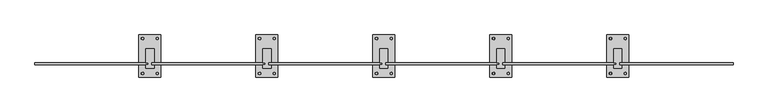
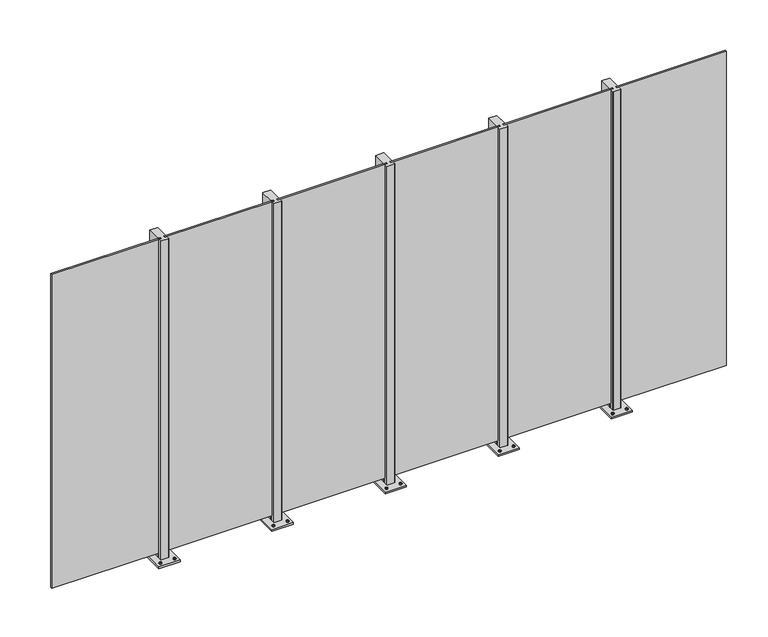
"""IFC4 building model written with IfcOpenShell, lengths in millimetres: railing geometry, TOP CONCRETE ANCHOR _TOP MOUNT STRUC_GLASS_8'."""

import ifcopenshell
import ifcopenshell.guid

model = None  # the IFC model being written
_history = None  # IfcOwnerHistory: only IFC2X3 demands one
_inside = {}  # id of a spatial element -> (the spatial element, [elements in it])
_under = {}  # id of a project, library or spatial element -> (it, [spatial elements below it])
_declared = {}  # id of a project -> (the project, [libraries it declares])
_typed = {}  # id of a type object -> (the type object, [elements of that type])
_made_of = {}  # id of a material, layer set ... -> (it, [elements and type objects made of it])


def new_model(schema):
    """Start an empty IFC model of exactly this schema.

    Asked for "IFC4X3", IfcOpenShell would pick the latest addendum, in which some entities
    have other attributes; the version numbers below select the first issue.
    IFC2X3 requires an IfcOwnerHistory on every rooted entity: one is made here for all.
    """
    global model, _history
    if schema == "IFC4X3":
        model = ifcopenshell.file(schema_version=(4, 3, 0, 0))
    else:
        model = ifcopenshell.file(schema=schema)
    _inside.clear()
    _under.clear()
    _declared.clear()
    _typed.clear()
    _made_of.clear()
    _history = None
    if model.schema == "IFC2X3":
        org = make("IfcOrganization", Name="unknown")
        user = make(
            "IfcPersonAndOrganization",
            ThePerson=make("IfcPerson", FamilyName="unknown"),
            TheOrganization=org,
        )
        app = make(
            "IfcApplication",
            ApplicationDeveloper=org,
            Version="unknown",
            ApplicationFullName="unknown",
            ApplicationIdentifier="unknown",
        )
        _history = make(
            "IfcOwnerHistory",
            OwningUser=user,
            OwningApplication=app,
            ChangeAction="ADDED",
            CreationDate=0,
        )
    return model


def make(cls, **values):
    """One entity of the class cls with the attributes given. An attribute that is None is left unset."""
    return model.create_entity(
        cls, **{name: value for name, value in values.items() if value is not None}
    )


def rooted(cls, **values):
    """An entity with a GlobalId (a new one), such as an element, a storey or a relation."""
    return make(cls, GlobalId=ifcopenshell.guid.new(), OwnerHistory=_history, **values)


def si_unit(unit_type, name, prefix=None):
    """IfcSIUnit, for example si_unit("LENGTHUNIT", "METRE", prefix="MILLI")."""
    return make("IfcSIUnit", UnitType=unit_type, Prefix=prefix, Name=name)


def assignment(units):
    """IfcUnitAssignment: the units of a project."""
    return None if units is None else make("IfcUnitAssignment", Units=units)


def point(xyz):
    """IfcCartesianPoint."""
    return None if xyz is None else make("IfcCartesianPoint", Coordinates=xyz)


def direction(xyz):
    """IfcDirection."""
    return None if xyz is None else make("IfcDirection", DirectionRatios=xyz)


def frame(location, z_axis=None, x_axis=None):
    """IfcAxis2Placement3D, a coordinate frame: its origin and axes. An axis left out is left unset."""
    return make(
        "IfcAxis2Placement3D",
        Location=point(location),
        Axis=direction(z_axis),
        RefDirection=direction(x_axis),
    )


def frame_2d(location, x_axis=None):
    """IfcAxis2Placement2D, a coordinate frame in the plane: its origin and x axis."""
    return make(
        "IfcAxis2Placement2D", Location=point(location), RefDirection=direction(x_axis)
    )


def origin():
    """The frame at (0, 0, 0) with its axes left unset."""
    return frame((0.0, 0.0, 0.0))


def origin_with_axes():
    """The frame at (0, 0, 0) with the z axis (0, 0, 1) and the x axis (1, 0, 0) written out."""
    return frame((0.0, 0.0, 0.0), z_axis=(0.0, 0.0, 1.0), x_axis=(1.0, 0.0, 0.0))


def place(relative_to, where):
    """IfcLocalPlacement: puts the frame where relative to a parent placement (None: the world)."""
    return make(
        "IfcLocalPlacement", PlacementRelTo=relative_to, RelativePlacement=where
    )


def context(
    kind, dimensions, precision=None, world=None, true_north=None, identifier=None
):
    """IfcGeometricRepresentationContext, for example the 3D "Model" context."""
    return make(
        "IfcGeometricRepresentationContext",
        ContextIdentifier=identifier,
        ContextType=kind,
        CoordinateSpaceDimension=dimensions,
        Precision=precision,
        WorldCoordinateSystem=world,
        TrueNorth=true_north,
    )


def project(units=None, contexts=None):
    """IfcProject with its units and contexts."""
    return rooted(
        "IfcProject",
        Name="project",
        RepresentationContexts=contexts,
        UnitsInContext=assignment(units),
    )


def spatial(cls, under=None, at=None, **own):
    """A site, building, storey or space (cls), placed at a placement, below another one or the project."""
    s = rooted(cls, ObjectPlacement=at, **own)
    if under is not None:
        _under.setdefault(under.id(), (under, []))[1].append(s)
    return s


def polyline(points):
    """IfcPolyline through the points."""
    return make("IfcPolyline", Points=[point(p) for p in points])


def circle_curve(where, radius):
    """IfcCircle in the frame where."""
    return make("IfcCircle", Position=where, Radius=radius)


def trimmed(basis, trim1, trim2, sense, master):
    """IfcTrimmedCurve: the piece of a basis curve between two trims."""
    return make(
        "IfcTrimmedCurve",
        BasisCurve=basis,
        Trim1=trim1,
        Trim2=trim2,
        SenseAgreement=sense,
        MasterRepresentation=master,
    )


def segment(curve, same_sense, transition):
    """IfcCompositeCurveSegment."""
    return make(
        "IfcCompositeCurveSegment",
        Transition=transition,
        SameSense=same_sense,
        ParentCurve=curve,
    )


def composite_curve(segments, self_intersect=None):
    """IfcCompositeCurve: segments joined end to end."""
    return make("IfcCompositeCurve", Segments=segments, SelfIntersect=self_intersect)


def outline(outer, holes=None, kind="AREA"):
    """IfcArbitraryClosedProfileDef: a profile drawn as a closed curve; with holes, ...WithVoids."""
    if holes is None:
        return make("IfcArbitraryClosedProfileDef", ProfileType=kind, OuterCurve=outer)
    return make(
        "IfcArbitraryProfileDefWithVoids",
        ProfileType=kind,
        OuterCurve=outer,
        InnerCurves=holes,
    )


def extrude(swept, where, along, depth):
    """IfcExtrudedAreaSolid: the profile swept, set in the frame where, extruded along a direction by depth."""
    return make(
        "IfcExtrudedAreaSolid",
        SweptArea=swept,
        Position=where,
        ExtrudedDirection=direction(along),
        Depth=depth,
    )


def shape(context_of_items, identifier, shape_type, items):
    """IfcShapeRepresentation: the items that make up one representation, for example the "Body"."""
    return make(
        "IfcShapeRepresentation",
        ContextOfItems=context_of_items,
        RepresentationIdentifier=identifier,
        RepresentationType=shape_type,
        Items=items,
    )


def source(mapping_origin, context_of_items, identifier, shape_type, items):
    """IfcRepresentationMap: a shape defined once, which mapped items show again and again."""
    return make(
        "IfcRepresentationMap",
        MappingOrigin=mapping_origin,
        MappedRepresentation=shape(context_of_items, identifier, shape_type, items),
    )


def transform(
    local_origin,
    x_axis=None,
    y_axis=None,
    z_axis=None,
    scale=None,
    scale2=None,
    scale3=None,
    uniform=True,
):
    """IfcCartesianTransformationOperator3D, or its non-uniform kind. x_axis, y_axis, z_axis: its Axis1, 2, 3."""
    if uniform:
        return make(
            "IfcCartesianTransformationOperator3D",
            Axis1=direction(x_axis),
            Axis2=direction(y_axis),
            LocalOrigin=point(local_origin),
            Scale=scale,
            Axis3=direction(z_axis),
        )
    return make(
        "IfcCartesianTransformationOperator3DnonUniform",
        Axis1=direction(x_axis),
        Axis2=direction(y_axis),
        LocalOrigin=point(local_origin),
        Scale=scale,
        Axis3=direction(z_axis),
        Scale2=scale2,
        Scale3=scale3,
    )


def mapped(mapping_source, mapping_target):
    """IfcMappedItem: shows the shape of a source again, moved by a transform."""
    return make(
        "IfcMappedItem", MappingSource=mapping_source, MappingTarget=mapping_target
    )


def made_of(thing, what):
    """Note that an element or type object is made of a material, layer set ...; save() writes the relation."""
    if what is not None:
        _made_of.setdefault(what.id(), (what, []))[1].append(thing)
    return thing


def element(
    cls,
    number,
    at=None,
    inside=None,
    cuts=None,
    type_object=None,
    material=None,
    context=None,
    identifier="Body",
    shape_type=None,
    held_by="IfcProductDefinitionShape",
    body=None,
    shapes=None,
    **own,
):
    """One element of the class cls, such as IfcWall. Its Tag is "e" and its number.

    at: its placement. inside: the storey or other place that contains it. cuts: it is an
    opening in that element (IfcRelVoidsElement). A single representation is given by context,
    identifier, shape_type and body (its items); several are given by shapes. held_by: the class
    of the entity that holds the representations. save() writes the other relations.
    """
    e = rooted(cls, Tag="e%d" % number, ObjectPlacement=at, **own)
    if body is not None:
        shapes = [shape(context, identifier, shape_type, body)]
    if shapes is not None:
        e.Representation = make(held_by, Representations=shapes)
    if inside is not None:
        _inside.setdefault(inside.id(), (inside, []))[1].append(e)
    if cuts is not None:
        rooted(
            "IfcRelVoidsElement", RelatingBuildingElement=cuts, RelatedOpeningElement=e
        )
    if type_object is not None:
        _typed.setdefault(type_object.id(), (type_object, []))[1].append(e)
    return made_of(e, material)


def aggregate(whole, parts):
    """IfcRelAggregates: a whole, such as a stair, and the parts it consists of."""
    return rooted("IfcRelAggregates", RelatingObject=whole, RelatedObjects=parts)


def save(model, path):
    """Write the relations noted so far, then the file.

    IfcRelAggregates (storeys below a building ...), IfcRelContainedInSpatialStructure (elements
    in a storey), IfcRelDefinesByType, IfcRelAssociatesMaterial and IfcRelDeclares: one each for
    every whole, place, type object, material and project.
    """
    for whole, parts in _under.values():
        aggregate(whole, parts)
    for where, things in _inside.values():
        rooted(
            "IfcRelContainedInSpatialStructure",
            RelatedElements=things,
            RelatingStructure=where,
        )
    for kind, things in _typed.values():
        rooted("IfcRelDefinesByType", RelatedObjects=things, RelatingType=kind)
    for what, things in _made_of.values():
        rooted("IfcRelAssociatesMaterial", RelatedObjects=things, RelatingMaterial=what)
    for by, libraries in _declared.values():
        rooted("IfcRelDeclares", RelatingContext=by, RelatedDefinitions=libraries)
    model.write(path)


def railing_cea4295c(model_context):
    return source(origin(), model_context, "Body", "SweptSolid", [
        extrude(outline(polyline([(100586.0372945, -69364.8475683), (101373.4372945, -69364.8475683), (101373.4372945, -69377.5475683), (100586.0372945, -69377.5475683), (100586.0372945, -69364.8475683)])), frame((0.0, 0.0, 50.8), z_axis=(0.0, 0.0, 1.0), x_axis=(1.0, 0.0, 0.0)), (0.0, 0.0, 1.0), 2387.6),
        extrude(outline(composite_curve([segment(trimmed(circle_curve(frame_2d((100521.7517641, -69436.8474113)), 7.4676494), [point((100514.2841147, -69436.8474113))], [point((100529.2194135, -69436.8474113))], False, "CARTESIAN"), True, "CONTINUOUS"), segment(trimmed(circle_curve(frame_2d((100521.7517641, -69436.8474113)), 7.4676494), [point((100529.2194135, -69436.8474113))], [point((100514.2841147, -69436.8474113))], False, "CARTESIAN"), True, "CONTINUOUS")], self_intersect=False), holes=[composite_curve([segment(trimmed(circle_curve(frame_2d((100521.7517641, -69436.8474113)), 6.5), [point((100515.2517641, -69436.8474113))], [point((100528.2517641, -69436.8474113))], True, "CARTESIAN"), True, "CONTINUOUS"), segment(trimmed(circle_curve(frame_2d((100521.7517641, -69436.8474113)), 6.5), [point((100528.2517641, -69436.8474113))], [point((100515.2517641, -69436.8474113))], True, "CARTESIAN"), True, "CONTINUOUS")], self_intersect=False)]), frame((0.0, 0.0, 20.8360792), z_axis=(0.0, 0.0, 1.0), x_axis=(1.0, 0.0, 0.0)), (0.0, 0.0, 1.0), 0.9054221),
        extrude(outline(polyline([(100521.7512027, -69446.0165149), (100513.8137027, -69441.4448742), (100513.8137027, -69432.2746479), (100521.7512027, -69427.7030071), (100529.6887027, -69432.2746479), (100529.6887027, -69441.4448742), (100521.7512027, -69446.0165149)])), frame((0.0, 0.0, 12.7), z_axis=(0.0, 0.0, 1.0), x_axis=(1.0, 0.0, 0.0)), (0.0, 0.0, 1.0), 8.1360792),
        extrude(outline(composite_curve([segment(trimmed(circle_curve(frame_2d((100623.3506414, -69436.8474113)), 7.4676494), [point((100630.8182908, -69436.8474113))], [point((100615.882992, -69436.8474113))], False, "CARTESIAN"), True, "CONTINUOUS"), segment(trimmed(circle_curve(frame_2d((100623.3506414, -69436.8474113)), 7.4676494), [point((100615.882992, -69436.8474113))], [point((100630.8182908, -69436.8474113))], False, "CARTESIAN"), True, "CONTINUOUS")], self_intersect=False), holes=[composite_curve([segment(trimmed(circle_curve(frame_2d((100623.3506414, -69436.8474113)), 6.5), [point((100629.8506414, -69436.8474113))], [point((100616.8506414, -69436.8474113))], True, "CARTESIAN"), True, "CONTINUOUS"), segment(trimmed(circle_curve(frame_2d((100623.3506414, -69436.8474113)), 6.5), [point((100616.8506414, -69436.8474113))], [point((100629.8506414, -69436.8474113))], True, "CARTESIAN"), True, "CONTINUOUS")], self_intersect=False)]), frame((0.0, 0.0, 20.8360792), z_axis=(0.0, 0.0, 1.0), x_axis=(1.0, 0.0, 0.0)), (0.0, 0.0, 1.0), 0.9054221),
        extrude(outline(polyline([(100623.3512027, -69446.0165149), (100615.4137027, -69441.4448742), (100615.4137027, -69432.2746479), (100623.3512027, -69427.7030071), (100631.2887027, -69432.2746479), (100631.2887027, -69441.4448742), (100623.3512027, -69446.0165149)])), frame((0.0, 0.0, 12.7), z_axis=(0.0, 0.0, 1.0), x_axis=(1.0, 0.0, 0.0)), (0.0, 0.0, 1.0), 8.1360792),
        extrude(outline(composite_curve([segment(trimmed(circle_curve(frame_2d((100521.7517641, -69195.5474113)), 7.4676494), [point((100514.2841147, -69195.5474113))], [point((100529.2194135, -69195.5474113))], False, "CARTESIAN"), True, "CONTINUOUS"), segment(trimmed(circle_curve(frame_2d((100521.7517641, -69195.5474113)), 7.4676494), [point((100529.2194135, -69195.5474113))], [point((100514.2841147, -69195.5474113))], False, "CARTESIAN"), True, "CONTINUOUS")], self_intersect=False), holes=[composite_curve([segment(trimmed(circle_curve(frame_2d((100521.7517641, -69195.5474113)), 6.5), [point((100515.2517641, -69195.5474113))], [point((100528.2517641, -69195.5474113))], True, "CARTESIAN"), True, "CONTINUOUS"), segment(trimmed(circle_curve(frame_2d((100521.7517641, -69195.5474113)), 6.5), [point((100528.2517641, -69195.5474113))], [point((100515.2517641, -69195.5474113))], True, "CARTESIAN"), True, "CONTINUOUS")], self_intersect=False)]), frame((0.0, 0.0, 20.8360792), z_axis=(0.0, 0.0, 1.0), x_axis=(1.0, 0.0, 0.0)), (0.0, 0.0, 1.0), 0.9054221),
        extrude(outline(polyline([(100521.7512027, -69186.3783077), (100529.6887027, -69190.9499484), (100529.6887027, -69200.1201747), (100521.7512027, -69204.6918155), (100513.8137027, -69200.1201747), (100513.8137027, -69190.9499484), (100521.7512027, -69186.3783077)])), frame((0.0, 0.0, 12.7), z_axis=(0.0, 0.0, 1.0), x_axis=(1.0, 0.0, 0.0)), (0.0, 0.0, 1.0), 8.1360792),
        extrude(outline(composite_curve([segment(trimmed(circle_curve(frame_2d((100623.3506414, -69195.5474113)), 7.4676494), [point((100630.8182908, -69195.5474113))], [point((100615.882992, -69195.5474113))], False, "CARTESIAN"), True, "CONTINUOUS"), segment(trimmed(circle_curve(frame_2d((100623.3506414, -69195.5474113)), 7.4676494), [point((100615.882992, -69195.5474113))], [point((100630.8182908, -69195.5474113))], False, "CARTESIAN"), True, "CONTINUOUS")], self_intersect=False), holes=[composite_curve([segment(trimmed(circle_curve(frame_2d((100623.3506414, -69195.5474113)), 6.5), [point((100629.8506414, -69195.5474113))], [point((100616.8506414, -69195.5474113))], True, "CARTESIAN"), True, "CONTINUOUS"), segment(trimmed(circle_curve(frame_2d((100623.3506414, -69195.5474113)), 6.5), [point((100616.8506414, -69195.5474113))], [point((100629.8506414, -69195.5474113))], True, "CARTESIAN"), True, "CONTINUOUS")], self_intersect=False)]), frame((0.0, 0.0, 20.8360792), z_axis=(0.0, 0.0, 1.0), x_axis=(1.0, 0.0, 0.0)), (0.0, 0.0, 1.0), 0.9054221),
        extrude(outline(polyline([(100623.3512027, -69186.3783077), (100631.2887027, -69190.9499484), (100631.2887027, -69200.1201747), (100623.3512027, -69204.6918155), (100615.4137027, -69200.1201747), (100615.4137027, -69190.9499484), (100623.3512027, -69186.3783077)])), frame((0.0, 0.0, 12.7), z_axis=(0.0, 0.0, 1.0), x_axis=(1.0, 0.0, 0.0)), (0.0, 0.0, 1.0), 8.1360792),
        extrude(outline(polyline([(100496.3506414, -69170.1474113), (100648.7506414, -69170.1474113), (100648.7506414, -69462.2474113), (100496.3506414, -69462.2474113), (100496.3506414, -69170.1474113)])), origin_with_axes(), (0.0, 0.0, 1.0), 12.7),
        extrude(outline(composite_curve([segment(polyline([(100601.1256414, -69364.8475683), (100586.0372945, -69364.8475683), (100586.0372945, -69377.5475683), (100601.1256414, -69377.5475683), (100601.1256414, -69402.4474113)]), True, "CONTINUOUS"), segment(trimmed(circle_curve(frame_2d((100600.6256414, -69402.4474113)), 0.5), [point((100601.1256414, -69402.4474113))], [point((100600.6256414, -69402.9474113))], False, "CARTESIAN"), True, "CONTINUOUS"), segment(polyline([(100600.6256414, -69402.9474113), (100544.4756414, -69402.9474113)]), True, "CONTINUOUS"), segment(trimmed(circle_curve(frame_2d((100544.4756414, -69402.4474113)), 0.5), [point((100544.4756414, -69402.9474113))], [point((100543.9756414, -69402.4474113))], False, "CARTESIAN"), True, "CONTINUOUS"), segment(polyline([(100543.9756414, -69402.4474113), (100543.9756414, -69377.5475683), (100560.6372945, -69377.5475683), (100560.6372945, -69364.8475683), (100543.9756414, -69364.8475683), (100543.9756414, -69265.8234113)]), True, "CONTINUOUS"), segment(trimmed(circle_curve(frame_2d((100544.4756414, -69265.8234113)), 0.5), [point((100543.9756414, -69265.8234113))], [point((100544.4756414, -69265.3234113))], False, "CARTESIAN"), True, "CONTINUOUS"), segment(polyline([(100544.4756414, -69265.3234113), (100600.6256414, -69265.3234113)]), True, "CONTINUOUS"), segment(trimmed(circle_curve(frame_2d((100600.6256414, -69265.8234113)), 0.5), [point((100600.6256414, -69265.3234113))], [point((100601.1256414, -69265.8234113))], False, "CARTESIAN"), True, "CONTINUOUS"), segment(polyline([(100601.1256414, -69265.8234113), (100601.1256414, -69364.8475683)]), True, "CONTINUOUS")], self_intersect=False)), origin_with_axes(), (0.0, 0.0, 1.0), 2438.4),
        extrude(outline(polyline([(99773.2372945, -69364.8475683), (100560.6372945, -69364.8475683), (100560.6372945, -69377.5475683), (99773.2372945, -69377.5475683), (99773.2372945, -69364.8475683)])), frame((0.0, 0.0, 50.8), z_axis=(0.0, 0.0, 1.0), x_axis=(1.0, 0.0, 0.0)), (0.0, 0.0, 1.0), 2387.6),
        extrude(outline(composite_curve([segment(trimmed(circle_curve(frame_2d((99708.9517641, -69436.8474113)), 7.4676494), [point((99701.4841147, -69436.8474113))], [point((99716.4194135, -69436.8474113))], False, "CARTESIAN"), True, "CONTINUOUS"), segment(trimmed(circle_curve(frame_2d((99708.9517641, -69436.8474113)), 7.4676494), [point((99716.4194135, -69436.8474113))], [point((99701.4841147, -69436.8474113))], False, "CARTESIAN"), True, "CONTINUOUS")], self_intersect=False), holes=[composite_curve([segment(trimmed(circle_curve(frame_2d((99708.9517641, -69436.8474113)), 6.5), [point((99702.4517641, -69436.8474113))], [point((99715.4517641, -69436.8474113))], True, "CARTESIAN"), True, "CONTINUOUS"), segment(trimmed(circle_curve(frame_2d((99708.9517641, -69436.8474113)), 6.5), [point((99715.4517641, -69436.8474113))], [point((99702.4517641, -69436.8474113))], True, "CARTESIAN"), True, "CONTINUOUS")], self_intersect=False)]), frame((0.0, 0.0, 20.8360792), z_axis=(0.0, 0.0, 1.0), x_axis=(1.0, 0.0, 0.0)), (0.0, 0.0, 1.0), 0.9054221),
        extrude(outline(polyline([(99708.9512027, -69446.0165149), (99701.0137027, -69441.4448742), (99701.0137027, -69432.2746479), (99708.9512027, -69427.7030071), (99716.8887027, -69432.2746479), (99716.8887027, -69441.4448742), (99708.9512027, -69446.0165149)])), frame((0.0, 0.0, 12.7), z_axis=(0.0, 0.0, 1.0), x_axis=(1.0, 0.0, 0.0)), (0.0, 0.0, 1.0), 8.1360792),
        extrude(outline(composite_curve([segment(trimmed(circle_curve(frame_2d((99810.5506414, -69436.8474113)), 7.4676494), [point((99818.0182908, -69436.8474113))], [point((99803.082992, -69436.8474113))], False, "CARTESIAN"), True, "CONTINUOUS"), segment(trimmed(circle_curve(frame_2d((99810.5506414, -69436.8474113)), 7.4676494), [point((99803.082992, -69436.8474113))], [point((99818.0182908, -69436.8474113))], False, "CARTESIAN"), True, "CONTINUOUS")], self_intersect=False), holes=[composite_curve([segment(trimmed(circle_curve(frame_2d((99810.5506414, -69436.8474113)), 6.5), [point((99817.0506414, -69436.8474113))], [point((99804.0506414, -69436.8474113))], True, "CARTESIAN"), True, "CONTINUOUS"), segment(trimmed(circle_curve(frame_2d((99810.5506414, -69436.8474113)), 6.5), [point((99804.0506414, -69436.8474113))], [point((99817.0506414, -69436.8474113))], True, "CARTESIAN"), True, "CONTINUOUS")], self_intersect=False)]), frame((0.0, 0.0, 20.8360792), z_axis=(0.0, 0.0, 1.0), x_axis=(1.0, 0.0, 0.0)), (0.0, 0.0, 1.0), 0.9054221),
        extrude(outline(polyline([(99810.5512027, -69446.0165149), (99802.6137027, -69441.4448742), (99802.6137027, -69432.2746479), (99810.5512027, -69427.7030071), (99818.4887027, -69432.2746479), (99818.4887027, -69441.4448742), (99810.5512027, -69446.0165149)])), frame((0.0, 0.0, 12.7), z_axis=(0.0, 0.0, 1.0), x_axis=(1.0, 0.0, 0.0)), (0.0, 0.0, 1.0), 8.1360792),
        extrude(outline(composite_curve([segment(trimmed(circle_curve(frame_2d((99708.9517641, -69195.5474113)), 7.4676494), [point((99701.4841147, -69195.5474113))], [point((99716.4194135, -69195.5474113))], False, "CARTESIAN"), True, "CONTINUOUS"), segment(trimmed(circle_curve(frame_2d((99708.9517641, -69195.5474113)), 7.4676494), [point((99716.4194135, -69195.5474113))], [point((99701.4841147, -69195.5474113))], False, "CARTESIAN"), True, "CONTINUOUS")], self_intersect=False), holes=[composite_curve([segment(trimmed(circle_curve(frame_2d((99708.9517641, -69195.5474113)), 6.5), [point((99702.4517641, -69195.5474113))], [point((99715.4517641, -69195.5474113))], True, "CARTESIAN"), True, "CONTINUOUS"), segment(trimmed(circle_curve(frame_2d((99708.9517641, -69195.5474113)), 6.5), [point((99715.4517641, -69195.5474113))], [point((99702.4517641, -69195.5474113))], True, "CARTESIAN"), True, "CONTINUOUS")], self_intersect=False)]), frame((0.0, 0.0, 20.8360792), z_axis=(0.0, 0.0, 1.0), x_axis=(1.0, 0.0, 0.0)), (0.0, 0.0, 1.0), 0.9054221),
        extrude(outline(polyline([(99708.9512027, -69186.3783077), (99716.8887027, -69190.9499484), (99716.8887027, -69200.1201747), (99708.9512027, -69204.6918155), (99701.0137027, -69200.1201747), (99701.0137027, -69190.9499484), (99708.9512027, -69186.3783077)])), frame((0.0, 0.0, 12.7), z_axis=(0.0, 0.0, 1.0), x_axis=(1.0, 0.0, 0.0)), (0.0, 0.0, 1.0), 8.1360792),
        extrude(outline(composite_curve([segment(trimmed(circle_curve(frame_2d((99810.5506414, -69195.5474113)), 7.4676494), [point((99818.0182908, -69195.5474113))], [point((99803.082992, -69195.5474113))], False, "CARTESIAN"), True, "CONTINUOUS"), segment(trimmed(circle_curve(frame_2d((99810.5506414, -69195.5474113)), 7.4676494), [point((99803.082992, -69195.5474113))], [point((99818.0182908, -69195.5474113))], False, "CARTESIAN"), True, "CONTINUOUS")], self_intersect=False), holes=[composite_curve([segment(trimmed(circle_curve(frame_2d((99810.5506414, -69195.5474113)), 6.5), [point((99817.0506414, -69195.5474113))], [point((99804.0506414, -69195.5474113))], True, "CARTESIAN"), True, "CONTINUOUS"), segment(trimmed(circle_curve(frame_2d((99810.5506414, -69195.5474113)), 6.5), [point((99804.0506414, -69195.5474113))], [point((99817.0506414, -69195.5474113))], True, "CARTESIAN"), True, "CONTINUOUS")], self_intersect=False)]), frame((0.0, 0.0, 20.8360792), z_axis=(0.0, 0.0, 1.0), x_axis=(1.0, 0.0, 0.0)), (0.0, 0.0, 1.0), 0.9054221),
        extrude(outline(polyline([(99810.5512027, -69186.3783077), (99818.4887027, -69190.9499484), (99818.4887027, -69200.1201747), (99810.5512027, -69204.6918155), (99802.6137027, -69200.1201747), (99802.6137027, -69190.9499484), (99810.5512027, -69186.3783077)])), frame((0.0, 0.0, 12.7), z_axis=(0.0, 0.0, 1.0), x_axis=(1.0, 0.0, 0.0)), (0.0, 0.0, 1.0), 8.1360792),
        extrude(outline(polyline([(99683.5506414, -69170.1474113), (99835.9506414, -69170.1474113), (99835.9506414, -69462.2474113), (99683.5506414, -69462.2474113), (99683.5506414, -69170.1474113)])), origin_with_axes(), (0.0, 0.0, 1.0), 12.7),
        extrude(outline(composite_curve([segment(polyline([(99788.3256414, -69364.8475683), (99773.2372945, -69364.8475683), (99773.2372945, -69377.5475683), (99788.3256414, -69377.5475683), (99788.3256414, -69402.4474113)]), True, "CONTINUOUS"), segment(trimmed(circle_curve(frame_2d((99787.8256414, -69402.4474113)), 0.5), [point((99788.3256414, -69402.4474113))], [point((99787.8256414, -69402.9474113))], False, "CARTESIAN"), True, "CONTINUOUS"), segment(polyline([(99787.8256414, -69402.9474113), (99731.6756414, -69402.9474113)]), True, "CONTINUOUS"), segment(trimmed(circle_curve(frame_2d((99731.6756414, -69402.4474113)), 0.5), [point((99731.6756414, -69402.9474113))], [point((99731.1756414, -69402.4474113))], False, "CARTESIAN"), True, "CONTINUOUS"), segment(polyline([(99731.1756414, -69402.4474113), (99731.1756414, -69377.5475683), (99747.8372945, -69377.5475683), (99747.8372945, -69364.8475683), (99731.1756414, -69364.8475683), (99731.1756414, -69265.8234113)]), True, "CONTINUOUS"), segment(trimmed(circle_curve(frame_2d((99731.6756414, -69265.8234113)), 0.5), [point((99731.1756414, -69265.8234113))], [point((99731.6756414, -69265.3234113))], False, "CARTESIAN"), True, "CONTINUOUS"), segment(polyline([(99731.6756414, -69265.3234113), (99787.8256414, -69265.3234113)]), True, "CONTINUOUS"), segment(trimmed(circle_curve(frame_2d((99787.8256414, -69265.8234113)), 0.5), [point((99787.8256414, -69265.3234113))], [point((99788.3256414, -69265.8234113))], False, "CARTESIAN"), True, "CONTINUOUS"), segment(polyline([(99788.3256414, -69265.8234113), (99788.3256414, -69364.8475683)]), True, "CONTINUOUS")], self_intersect=False)), origin_with_axes(), (0.0, 0.0, 1.0), 2438.4),
        extrude(outline(polyline([(98960.4372945, -69364.8475683), (99747.8372945, -69364.8475683), (99747.8372945, -69377.5475683), (98960.4372945, -69377.5475683), (98960.4372945, -69364.8475683)])), frame((0.0, 0.0, 50.8), z_axis=(0.0, 0.0, 1.0), x_axis=(1.0, 0.0, 0.0)), (0.0, 0.0, 1.0), 2387.6),
        extrude(outline(composite_curve([segment(trimmed(circle_curve(frame_2d((98896.1517641, -69436.8474113)), 7.4676494), [point((98888.6841147, -69436.8474113))], [point((98903.6194135, -69436.8474113))], False, "CARTESIAN"), True, "CONTINUOUS"), segment(trimmed(circle_curve(frame_2d((98896.1517641, -69436.8474113)), 7.4676494), [point((98903.6194135, -69436.8474113))], [point((98888.6841147, -69436.8474113))], False, "CARTESIAN"), True, "CONTINUOUS")], self_intersect=False), holes=[composite_curve([segment(trimmed(circle_curve(frame_2d((98896.1517641, -69436.8474113)), 6.5), [point((98889.6517641, -69436.8474113))], [point((98902.6517641, -69436.8474113))], True, "CARTESIAN"), True, "CONTINUOUS"), segment(trimmed(circle_curve(frame_2d((98896.1517641, -69436.8474113)), 6.5), [point((98902.6517641, -69436.8474113))], [point((98889.6517641, -69436.8474113))], True, "CARTESIAN"), True, "CONTINUOUS")], self_intersect=False)]), frame((0.0, 0.0, 20.8360792), z_axis=(0.0, 0.0, 1.0), x_axis=(1.0, 0.0, 0.0)), (0.0, 0.0, 1.0), 0.9054221),
        extrude(outline(polyline([(98896.1512027, -69446.0165149), (98888.2137027, -69441.4448742), (98888.2137027, -69432.2746479), (98896.1512027, -69427.7030071), (98904.0887027, -69432.2746479), (98904.0887027, -69441.4448742), (98896.1512027, -69446.0165149)])), frame((0.0, 0.0, 12.7), z_axis=(0.0, 0.0, 1.0), x_axis=(1.0, 0.0, 0.0)), (0.0, 0.0, 1.0), 8.1360792),
        extrude(outline(composite_curve([segment(trimmed(circle_curve(frame_2d((98997.7506414, -69436.8474113)), 7.4676494), [point((99005.2182908, -69436.8474113))], [point((98990.282992, -69436.8474113))], False, "CARTESIAN"), True, "CONTINUOUS"), segment(trimmed(circle_curve(frame_2d((98997.7506414, -69436.8474113)), 7.4676494), [point((98990.282992, -69436.8474113))], [point((99005.2182908, -69436.8474113))], False, "CARTESIAN"), True, "CONTINUOUS")], self_intersect=False), holes=[composite_curve([segment(trimmed(circle_curve(frame_2d((98997.7506414, -69436.8474113)), 6.5), [point((99004.2506414, -69436.8474113))], [point((98991.2506414, -69436.8474113))], True, "CARTESIAN"), True, "CONTINUOUS"), segment(trimmed(circle_curve(frame_2d((98997.7506414, -69436.8474113)), 6.5), [point((98991.2506414, -69436.8474113))], [point((99004.2506414, -69436.8474113))], True, "CARTESIAN"), True, "CONTINUOUS")], self_intersect=False)]), frame((0.0, 0.0, 20.8360792), z_axis=(0.0, 0.0, 1.0), x_axis=(1.0, 0.0, 0.0)), (0.0, 0.0, 1.0), 0.9054221),
        extrude(outline(polyline([(98997.7512027, -69446.0165149), (98989.8137027, -69441.4448742), (98989.8137027, -69432.2746479), (98997.7512027, -69427.7030071), (99005.6887027, -69432.2746479), (99005.6887027, -69441.4448742), (98997.7512027, -69446.0165149)])), frame((0.0, 0.0, 12.7), z_axis=(0.0, 0.0, 1.0), x_axis=(1.0, 0.0, 0.0)), (0.0, 0.0, 1.0), 8.1360792),
        extrude(outline(composite_curve([segment(trimmed(circle_curve(frame_2d((98896.1517641, -69195.5474113)), 7.4676494), [point((98888.6841147, -69195.5474113))], [point((98903.6194135, -69195.5474113))], False, "CARTESIAN"), True, "CONTINUOUS"), segment(trimmed(circle_curve(frame_2d((98896.1517641, -69195.5474113)), 7.4676494), [point((98903.6194135, -69195.5474113))], [point((98888.6841147, -69195.5474113))], False, "CARTESIAN"), True, "CONTINUOUS")], self_intersect=False), holes=[composite_curve([segment(trimmed(circle_curve(frame_2d((98896.1517641, -69195.5474113)), 6.5), [point((98889.6517641, -69195.5474113))], [point((98902.6517641, -69195.5474113))], True, "CARTESIAN"), True, "CONTINUOUS"), segment(trimmed(circle_curve(frame_2d((98896.1517641, -69195.5474113)), 6.5), [point((98902.6517641, -69195.5474113))], [point((98889.6517641, -69195.5474113))], True, "CARTESIAN"), True, "CONTINUOUS")], self_intersect=False)]), frame((0.0, 0.0, 20.8360792), z_axis=(0.0, 0.0, 1.0), x_axis=(1.0, 0.0, 0.0)), (0.0, 0.0, 1.0), 0.9054221),
        extrude(outline(polyline([(98896.1512027, -69186.3783077), (98904.0887027, -69190.9499484), (98904.0887027, -69200.1201747), (98896.1512027, -69204.6918155), (98888.2137027, -69200.1201747), (98888.2137027, -69190.9499484), (98896.1512027, -69186.3783077)])), frame((0.0, 0.0, 12.7), z_axis=(0.0, 0.0, 1.0), x_axis=(1.0, 0.0, 0.0)), (0.0, 0.0, 1.0), 8.1360792),
        extrude(outline(composite_curve([segment(trimmed(circle_curve(frame_2d((98997.7506414, -69195.5474113)), 7.4676494), [point((99005.2182908, -69195.5474113))], [point((98990.282992, -69195.5474113))], False, "CARTESIAN"), True, "CONTINUOUS"), segment(trimmed(circle_curve(frame_2d((98997.7506414, -69195.5474113)), 7.4676494), [point((98990.282992, -69195.5474113))], [point((99005.2182908, -69195.5474113))], False, "CARTESIAN"), True, "CONTINUOUS")], self_intersect=False), holes=[composite_curve([segment(trimmed(circle_curve(frame_2d((98997.7506414, -69195.5474113)), 6.5), [point((99004.2506414, -69195.5474113))], [point((98991.2506414, -69195.5474113))], True, "CARTESIAN"), True, "CONTINUOUS"), segment(trimmed(circle_curve(frame_2d((98997.7506414, -69195.5474113)), 6.5), [point((98991.2506414, -69195.5474113))], [point((99004.2506414, -69195.5474113))], True, "CARTESIAN"), True, "CONTINUOUS")], self_intersect=False)]), frame((0.0, 0.0, 20.8360792), z_axis=(0.0, 0.0, 1.0), x_axis=(1.0, 0.0, 0.0)), (0.0, 0.0, 1.0), 0.9054221),
        extrude(outline(polyline([(98997.7512027, -69186.3783077), (99005.6887027, -69190.9499484), (99005.6887027, -69200.1201747), (98997.7512027, -69204.6918155), (98989.8137027, -69200.1201747), (98989.8137027, -69190.9499484), (98997.7512027, -69186.3783077)])), frame((0.0, 0.0, 12.7), z_axis=(0.0, 0.0, 1.0), x_axis=(1.0, 0.0, 0.0)), (0.0, 0.0, 1.0), 8.1360792),
        extrude(outline(polyline([(98870.7506414, -69170.1474113), (99023.1506414, -69170.1474113), (99023.1506414, -69462.2474113), (98870.7506414, -69462.2474113), (98870.7506414, -69170.1474113)])), origin_with_axes(), (0.0, 0.0, 1.0), 12.7),
        extrude(outline(composite_curve([segment(polyline([(98975.5256414, -69364.8475683), (98960.4372945, -69364.8475683), (98960.4372945, -69377.5475683), (98975.5256414, -69377.5475683), (98975.5256414, -69402.4474113)]), True, "CONTINUOUS"), segment(trimmed(circle_curve(frame_2d((98975.0256414, -69402.4474113)), 0.5), [point((98975.5256414, -69402.4474113))], [point((98975.0256414, -69402.9474113))], False, "CARTESIAN"), True, "CONTINUOUS"), segment(polyline([(98975.0256414, -69402.9474113), (98918.8756414, -69402.9474113)]), True, "CONTINUOUS"), segment(trimmed(circle_curve(frame_2d((98918.8756414, -69402.4474113)), 0.5), [point((98918.8756414, -69402.9474113))], [point((98918.3756414, -69402.4474113))], False, "CARTESIAN"), True, "CONTINUOUS"), segment(polyline([(98918.3756414, -69402.4474113), (98918.3756414, -69377.5475683), (98935.0372945, -69377.5475683), (98935.0372945, -69364.8475683), (98918.3756414, -69364.8475683), (98918.3756414, -69265.8234113)]), True, "CONTINUOUS"), segment(trimmed(circle_curve(frame_2d((98918.8756414, -69265.8234113)), 0.5), [point((98918.3756414, -69265.8234113))], [point((98918.8756414, -69265.3234113))], False, "CARTESIAN"), True, "CONTINUOUS"), segment(polyline([(98918.8756414, -69265.3234113), (98975.0256414, -69265.3234113)]), True, "CONTINUOUS"), segment(trimmed(circle_curve(frame_2d((98975.0256414, -69265.8234113)), 0.5), [point((98975.0256414, -69265.3234113))], [point((98975.5256414, -69265.8234113))], False, "CARTESIAN"), True, "CONTINUOUS"), segment(polyline([(98975.5256414, -69265.8234113), (98975.5256414, -69364.8475683)]), True, "CONTINUOUS")], self_intersect=False)), origin_with_axes(), (0.0, 0.0, 1.0), 2438.4),
        extrude(outline(polyline([(98147.6372945, -69364.8475683), (98935.0372945, -69364.8475683), (98935.0372945, -69377.5475683), (98147.6372945, -69377.5475683), (98147.6372945, -69364.8475683)])), frame((0.0, 0.0, 50.8), z_axis=(0.0, 0.0, 1.0), x_axis=(1.0, 0.0, 0.0)), (0.0, 0.0, 1.0), 2387.6),
        extrude(outline(composite_curve([segment(trimmed(circle_curve(frame_2d((98083.3517641, -69436.8474113)), 7.4676494), [point((98075.8841147, -69436.8474113))], [point((98090.8194135, -69436.8474113))], False, "CARTESIAN"), True, "CONTINUOUS"), segment(trimmed(circle_curve(frame_2d((98083.3517641, -69436.8474113)), 7.4676494), [point((98090.8194135, -69436.8474113))], [point((98075.8841147, -69436.8474113))], False, "CARTESIAN"), True, "CONTINUOUS")], self_intersect=False), holes=[composite_curve([segment(trimmed(circle_curve(frame_2d((98083.3517641, -69436.8474113)), 6.5), [point((98076.8517641, -69436.8474113))], [point((98089.8517641, -69436.8474113))], True, "CARTESIAN"), True, "CONTINUOUS"), segment(trimmed(circle_curve(frame_2d((98083.3517641, -69436.8474113)), 6.5), [point((98089.8517641, -69436.8474113))], [point((98076.8517641, -69436.8474113))], True, "CARTESIAN"), True, "CONTINUOUS")], self_intersect=False)]), frame((0.0, 0.0, 20.8360792), z_axis=(0.0, 0.0, 1.0), x_axis=(1.0, 0.0, 0.0)), (0.0, 0.0, 1.0), 0.9054221),
        extrude(outline(polyline([(98083.3512027, -69446.0165149), (98075.4137027, -69441.4448742), (98075.4137027, -69432.2746479), (98083.3512027, -69427.7030071), (98091.2887027, -69432.2746479), (98091.2887027, -69441.4448742), (98083.3512027, -69446.0165149)])), frame((0.0, 0.0, 12.7), z_axis=(0.0, 0.0, 1.0), x_axis=(1.0, 0.0, 0.0)), (0.0, 0.0, 1.0), 8.1360792),
        extrude(outline(composite_curve([segment(trimmed(circle_curve(frame_2d((98184.9506414, -69436.8474113)), 7.4676494), [point((98192.4182908, -69436.8474113))], [point((98177.482992, -69436.8474113))], False, "CARTESIAN"), True, "CONTINUOUS"), segment(trimmed(circle_curve(frame_2d((98184.9506414, -69436.8474113)), 7.4676494), [point((98177.482992, -69436.8474113))], [point((98192.4182908, -69436.8474113))], False, "CARTESIAN"), True, "CONTINUOUS")], self_intersect=False), holes=[composite_curve([segment(trimmed(circle_curve(frame_2d((98184.9506414, -69436.8474113)), 6.5), [point((98191.4506414, -69436.8474113))], [point((98178.4506414, -69436.8474113))], True, "CARTESIAN"), True, "CONTINUOUS"), segment(trimmed(circle_curve(frame_2d((98184.9506414, -69436.8474113)), 6.5), [point((98178.4506414, -69436.8474113))], [point((98191.4506414, -69436.8474113))], True, "CARTESIAN"), True, "CONTINUOUS")], self_intersect=False)]), frame((0.0, 0.0, 20.8360792), z_axis=(0.0, 0.0, 1.0), x_axis=(1.0, 0.0, 0.0)), (0.0, 0.0, 1.0), 0.9054221),
        extrude(outline(polyline([(98184.9512027, -69446.0165149), (98177.0137027, -69441.4448742), (98177.0137027, -69432.2746479), (98184.9512027, -69427.7030071), (98192.8887027, -69432.2746479), (98192.8887027, -69441.4448742), (98184.9512027, -69446.0165149)])), frame((0.0, 0.0, 12.7), z_axis=(0.0, 0.0, 1.0), x_axis=(1.0, 0.0, 0.0)), (0.0, 0.0, 1.0), 8.1360792),
        extrude(outline(composite_curve([segment(trimmed(circle_curve(frame_2d((98083.3517641, -69195.5474113)), 7.4676494), [point((98075.8841147, -69195.5474113))], [point((98090.8194135, -69195.5474113))], False, "CARTESIAN"), True, "CONTINUOUS"), segment(trimmed(circle_curve(frame_2d((98083.3517641, -69195.5474113)), 7.4676494), [point((98090.8194135, -69195.5474113))], [point((98075.8841147, -69195.5474113))], False, "CARTESIAN"), True, "CONTINUOUS")], self_intersect=False), holes=[composite_curve([segment(trimmed(circle_curve(frame_2d((98083.3517641, -69195.5474113)), 6.5), [point((98076.8517641, -69195.5474113))], [point((98089.8517641, -69195.5474113))], True, "CARTESIAN"), True, "CONTINUOUS"), segment(trimmed(circle_curve(frame_2d((98083.3517641, -69195.5474113)), 6.5), [point((98089.8517641, -69195.5474113))], [point((98076.8517641, -69195.5474113))], True, "CARTESIAN"), True, "CONTINUOUS")], self_intersect=False)]), frame((0.0, 0.0, 20.8360792), z_axis=(0.0, 0.0, 1.0), x_axis=(1.0, 0.0, 0.0)), (0.0, 0.0, 1.0), 0.9054221),
        extrude(outline(polyline([(98083.3512027, -69186.3783077), (98091.2887027, -69190.9499484), (98091.2887027, -69200.1201747), (98083.3512027, -69204.6918155), (98075.4137027, -69200.1201747), (98075.4137027, -69190.9499484), (98083.3512027, -69186.3783077)])), frame((0.0, 0.0, 12.7), z_axis=(0.0, 0.0, 1.0), x_axis=(1.0, 0.0, 0.0)), (0.0, 0.0, 1.0), 8.1360792),
        extrude(outline(composite_curve([segment(trimmed(circle_curve(frame_2d((98184.9506414, -69195.5474113)), 7.4676494), [point((98192.4182908, -69195.5474113))], [point((98177.482992, -69195.5474113))], False, "CARTESIAN"), True, "CONTINUOUS"), segment(trimmed(circle_curve(frame_2d((98184.9506414, -69195.5474113)), 7.4676494), [point((98177.482992, -69195.5474113))], [point((98192.4182908, -69195.5474113))], False, "CARTESIAN"), True, "CONTINUOUS")], self_intersect=False), holes=[composite_curve([segment(trimmed(circle_curve(frame_2d((98184.9506414, -69195.5474113)), 6.5), [point((98191.4506414, -69195.5474113))], [point((98178.4506414, -69195.5474113))], True, "CARTESIAN"), True, "CONTINUOUS"), segment(trimmed(circle_curve(frame_2d((98184.9506414, -69195.5474113)), 6.5), [point((98178.4506414, -69195.5474113))], [point((98191.4506414, -69195.5474113))], True, "CARTESIAN"), True, "CONTINUOUS")], self_intersect=False)]), frame((0.0, 0.0, 20.8360792), z_axis=(0.0, 0.0, 1.0), x_axis=(1.0, 0.0, 0.0)), (0.0, 0.0, 1.0), 0.9054221),
        extrude(outline(polyline([(98184.9512027, -69186.3783077), (98192.8887027, -69190.9499484), (98192.8887027, -69200.1201747), (98184.9512027, -69204.6918155), (98177.0137027, -69200.1201747), (98177.0137027, -69190.9499484), (98184.9512027, -69186.3783077)])), frame((0.0, 0.0, 12.7), z_axis=(0.0, 0.0, 1.0), x_axis=(1.0, 0.0, 0.0)), (0.0, 0.0, 1.0), 8.1360792),
        extrude(outline(polyline([(98057.9506414, -69170.1474113), (98210.3506414, -69170.1474113), (98210.3506414, -69462.2474113), (98057.9506414, -69462.2474113), (98057.9506414, -69170.1474113)])), origin_with_axes(), (0.0, 0.0, 1.0), 12.7),
        extrude(outline(composite_curve([segment(polyline([(98162.7256414, -69364.8475683), (98147.6372945, -69364.8475683), (98147.6372945, -69377.5475683), (98162.7256414, -69377.5475683), (98162.7256414, -69402.4474113)]), True, "CONTINUOUS"), segment(trimmed(circle_curve(frame_2d((98162.2256414, -69402.4474113)), 0.5), [point((98162.7256414, -69402.4474113))], [point((98162.2256414, -69402.9474113))], False, "CARTESIAN"), True, "CONTINUOUS"), segment(polyline([(98162.2256414, -69402.9474113), (98106.0756414, -69402.9474113)]), True, "CONTINUOUS"), segment(trimmed(circle_curve(frame_2d((98106.0756414, -69402.4474113)), 0.5), [point((98106.0756414, -69402.9474113))], [point((98105.5756414, -69402.4474113))], False, "CARTESIAN"), True, "CONTINUOUS"), segment(polyline([(98105.5756414, -69402.4474113), (98105.5756414, -69377.5475683), (98122.2372945, -69377.5475683), (98122.2372945, -69364.8475683), (98105.5756414, -69364.8475683), (98105.5756414, -69265.8234113)]), True, "CONTINUOUS"), segment(trimmed(circle_curve(frame_2d((98106.0756414, -69265.8234113)), 0.5), [point((98105.5756414, -69265.8234113))], [point((98106.0756414, -69265.3234113))], False, "CARTESIAN"), True, "CONTINUOUS"), segment(polyline([(98106.0756414, -69265.3234113), (98162.2256414, -69265.3234113)]), True, "CONTINUOUS"), segment(trimmed(circle_curve(frame_2d((98162.2256414, -69265.8234113)), 0.5), [point((98162.2256414, -69265.3234113))], [point((98162.7256414, -69265.8234113))], False, "CARTESIAN"), True, "CONTINUOUS"), segment(polyline([(98162.7256414, -69265.8234113), (98162.7256414, -69364.8475683)]), True, "CONTINUOUS")], self_intersect=False)), origin_with_axes(), (0.0, 0.0, 1.0), 2438.4),
        extrude(outline(polyline([(97334.8372945, -69364.8475683), (98122.2372945, -69364.8475683), (98122.2372945, -69377.5475683), (97334.8372945, -69377.5475683), (97334.8372945, -69364.8475683)])), frame((0.0, 0.0, 50.8), z_axis=(0.0, 0.0, 1.0), x_axis=(1.0, 0.0, 0.0)), (0.0, 0.0, 1.0), 2387.6),
        extrude(outline(composite_curve([segment(trimmed(circle_curve(frame_2d((97270.5517641, -69436.8474113)), 7.4676494), [point((97263.0841147, -69436.8474113))], [point((97278.0194135, -69436.8474113))], False, "CARTESIAN"), True, "CONTINUOUS"), segment(trimmed(circle_curve(frame_2d((97270.5517641, -69436.8474113)), 7.4676494), [point((97278.0194135, -69436.8474113))], [point((97263.0841147, -69436.8474113))], False, "CARTESIAN"), True, "CONTINUOUS")], self_intersect=False), holes=[composite_curve([segment(trimmed(circle_curve(frame_2d((97270.5517641, -69436.8474113)), 6.5), [point((97264.0517641, -69436.8474113))], [point((97277.0517641, -69436.8474113))], True, "CARTESIAN"), True, "CONTINUOUS"), segment(trimmed(circle_curve(frame_2d((97270.5517641, -69436.8474113)), 6.5), [point((97277.0517641, -69436.8474113))], [point((97264.0517641, -69436.8474113))], True, "CARTESIAN"), True, "CONTINUOUS")], self_intersect=False)]), frame((0.0, 0.0, 20.8360792), z_axis=(0.0, 0.0, 1.0), x_axis=(1.0, 0.0, 0.0)), (0.0, 0.0, 1.0), 0.9054221),
        extrude(outline(polyline([(97270.5512027, -69446.0165149), (97262.6137027, -69441.4448742), (97262.6137027, -69432.2746479), (97270.5512027, -69427.7030071), (97278.4887027, -69432.2746479), (97278.4887027, -69441.4448742), (97270.5512027, -69446.0165149)])), frame((0.0, 0.0, 12.7), z_axis=(0.0, 0.0, 1.0), x_axis=(1.0, 0.0, 0.0)), (0.0, 0.0, 1.0), 8.1360792),
        extrude(outline(composite_curve([segment(trimmed(circle_curve(frame_2d((97372.1506414, -69436.8474113)), 7.4676494), [point((97379.6182908, -69436.8474113))], [point((97364.682992, -69436.8474113))], False, "CARTESIAN"), True, "CONTINUOUS"), segment(trimmed(circle_curve(frame_2d((97372.1506414, -69436.8474113)), 7.4676494), [point((97364.682992, -69436.8474113))], [point((97379.6182908, -69436.8474113))], False, "CARTESIAN"), True, "CONTINUOUS")], self_intersect=False), holes=[composite_curve([segment(trimmed(circle_curve(frame_2d((97372.1506414, -69436.8474113)), 6.5), [point((97378.6506414, -69436.8474113))], [point((97365.6506414, -69436.8474113))], True, "CARTESIAN"), True, "CONTINUOUS"), segment(trimmed(circle_curve(frame_2d((97372.1506414, -69436.8474113)), 6.5), [point((97365.6506414, -69436.8474113))], [point((97378.6506414, -69436.8474113))], True, "CARTESIAN"), True, "CONTINUOUS")], self_intersect=False)]), frame((0.0, 0.0, 20.8360792), z_axis=(0.0, 0.0, 1.0), x_axis=(1.0, 0.0, 0.0)), (0.0, 0.0, 1.0), 0.9054221),
        extrude(outline(polyline([(97372.1512027, -69446.0165149), (97364.2137027, -69441.4448742), (97364.2137027, -69432.2746479), (97372.1512027, -69427.7030071), (97380.0887027, -69432.2746479), (97380.0887027, -69441.4448742), (97372.1512027, -69446.0165149)])), frame((0.0, 0.0, 12.7), z_axis=(0.0, 0.0, 1.0), x_axis=(1.0, 0.0, 0.0)), (0.0, 0.0, 1.0), 8.1360792),
        extrude(outline(composite_curve([segment(trimmed(circle_curve(frame_2d((97270.5517641, -69195.5474113)), 7.4676494), [point((97263.0841147, -69195.5474113))], [point((97278.0194135, -69195.5474113))], False, "CARTESIAN"), True, "CONTINUOUS"), segment(trimmed(circle_curve(frame_2d((97270.5517641, -69195.5474113)), 7.4676494), [point((97278.0194135, -69195.5474113))], [point((97263.0841147, -69195.5474113))], False, "CARTESIAN"), True, "CONTINUOUS")], self_intersect=False), holes=[composite_curve([segment(trimmed(circle_curve(frame_2d((97270.5517641, -69195.5474113)), 6.5), [point((97264.0517641, -69195.5474113))], [point((97277.0517641, -69195.5474113))], True, "CARTESIAN"), True, "CONTINUOUS"), segment(trimmed(circle_curve(frame_2d((97270.5517641, -69195.5474113)), 6.5), [point((97277.0517641, -69195.5474113))], [point((97264.0517641, -69195.5474113))], True, "CARTESIAN"), True, "CONTINUOUS")], self_intersect=False)]), frame((0.0, 0.0, 20.8360792), z_axis=(0.0, 0.0, 1.0), x_axis=(1.0, 0.0, 0.0)), (0.0, 0.0, 1.0), 0.9054221),
        extrude(outline(polyline([(97270.5512027, -69186.3783077), (97278.4887027, -69190.9499484), (97278.4887027, -69200.1201747), (97270.5512027, -69204.6918155), (97262.6137027, -69200.1201747), (97262.6137027, -69190.9499484), (97270.5512027, -69186.3783077)])), frame((0.0, 0.0, 12.7), z_axis=(0.0, 0.0, 1.0), x_axis=(1.0, 0.0, 0.0)), (0.0, 0.0, 1.0), 8.1360792),
        extrude(outline(composite_curve([segment(trimmed(circle_curve(frame_2d((97372.1506414, -69195.5474113)), 7.4676494), [point((97379.6182908, -69195.5474113))], [point((97364.682992, -69195.5474113))], False, "CARTESIAN"), True, "CONTINUOUS"), segment(trimmed(circle_curve(frame_2d((97372.1506414, -69195.5474113)), 7.4676494), [point((97364.682992, -69195.5474113))], [point((97379.6182908, -69195.5474113))], False, "CARTESIAN"), True, "CONTINUOUS")], self_intersect=False), holes=[composite_curve([segment(trimmed(circle_curve(frame_2d((97372.1506414, -69195.5474113)), 6.5), [point((97378.6506414, -69195.5474113))], [point((97365.6506414, -69195.5474113))], True, "CARTESIAN"), True, "CONTINUOUS"), segment(trimmed(circle_curve(frame_2d((97372.1506414, -69195.5474113)), 6.5), [point((97365.6506414, -69195.5474113))], [point((97378.6506414, -69195.5474113))], True, "CARTESIAN"), True, "CONTINUOUS")], self_intersect=False)]), frame((0.0, 0.0, 20.8360792), z_axis=(0.0, 0.0, 1.0), x_axis=(1.0, 0.0, 0.0)), (0.0, 0.0, 1.0), 0.9054221),
        extrude(outline(polyline([(97372.1512027, -69186.3783077), (97380.0887027, -69190.9499484), (97380.0887027, -69200.1201747), (97372.1512027, -69204.6918155), (97364.2137027, -69200.1201747), (97364.2137027, -69190.9499484), (97372.1512027, -69186.3783077)])), frame((0.0, 0.0, 12.7), z_axis=(0.0, 0.0, 1.0), x_axis=(1.0, 0.0, 0.0)), (0.0, 0.0, 1.0), 8.1360792),
        extrude(outline(polyline([(97245.1506414, -69170.1474113), (97397.5506414, -69170.1474113), (97397.5506414, -69462.2474113), (97245.1506414, -69462.2474113), (97245.1506414, -69170.1474113)])), origin_with_axes(), (0.0, 0.0, 1.0), 12.7),
        extrude(outline(composite_curve([segment(polyline([(97349.9256414, -69364.8475683), (97334.8372945, -69364.8475683), (97334.8372945, -69377.5475683), (97349.9256414, -69377.5475683), (97349.9256414, -69402.4474113)]), True, "CONTINUOUS"), segment(trimmed(circle_curve(frame_2d((97349.4256414, -69402.4474113)), 0.5), [point((97349.9256414, -69402.4474113))], [point((97349.4256414, -69402.9474113))], False, "CARTESIAN"), True, "CONTINUOUS"), segment(polyline([(97349.4256414, -69402.9474113), (97293.2756414, -69402.9474113)]), True, "CONTINUOUS"), segment(trimmed(circle_curve(frame_2d((97293.2756414, -69402.4474113)), 0.5), [point((97293.2756414, -69402.9474113))], [point((97292.7756414, -69402.4474113))], False, "CARTESIAN"), True, "CONTINUOUS"), segment(polyline([(97292.7756414, -69402.4474113), (97292.7756414, -69377.5475683), (97309.4372945, -69377.5475683), (97309.4372945, -69364.8475683), (97292.7756414, -69364.8475683), (97292.7756414, -69265.8234113)]), True, "CONTINUOUS"), segment(trimmed(circle_curve(frame_2d((97293.2756414, -69265.8234113)), 0.5), [point((97292.7756414, -69265.8234113))], [point((97293.2756414, -69265.3234113))], False, "CARTESIAN"), True, "CONTINUOUS"), segment(polyline([(97293.2756414, -69265.3234113), (97349.4256414, -69265.3234113)]), True, "CONTINUOUS"), segment(trimmed(circle_curve(frame_2d((97349.4256414, -69265.8234113)), 0.5), [point((97349.4256414, -69265.3234113))], [point((97349.9256414, -69265.8234113))], False, "CARTESIAN"), True, "CONTINUOUS"), segment(polyline([(97349.9256414, -69265.8234113), (97349.9256414, -69364.8475683)]), True, "CONTINUOUS")], self_intersect=False)), origin_with_axes(), (0.0, 0.0, 1.0), 2438.4),
        extrude(outline(polyline([(96522.0372945, -69364.8475683), (97309.4372945, -69364.8475683), (97309.4372945, -69377.5475683), (96522.0372945, -69377.5475683), (96522.0372945, -69364.8475683)])), frame((0.0, 0.0, 50.8), z_axis=(0.0, 0.0, 1.0), x_axis=(1.0, 0.0, 0.0)), (0.0, 0.0, 1.0), 2387.6),
    ])


if __name__ == "__main__":
    model = new_model("IFC4")
    model_context = context("Model", 3, world=origin())
    ifc_project = project(units=[si_unit("LENGTHUNIT", "METRE", prefix="MILLI")], contexts=[model_context])
    site = spatial("IfcSite", under=ifc_project)
    building = spatial("IfcBuilding", under=site)
    placement = place(None, origin())
    railing_shape = railing_cea4295c(model_context)
    element("IfcRailing", 1, ObjectType="TOP CONCRETE ANCHOR _TOP MOUNT STRUC_GLASS_8'", at=placement, inside=building, context=model_context, shape_type="MappedRepresentation", body=[
        mapped(railing_shape, transform((0.0, 0.0, 0.0), x_axis=(1.0, 0.0, 0.0), y_axis=(0.0, 1.0, 0.0), z_axis=(0.0, 0.0, 1.0))),
    ])
    save(model, "model.ifc")
